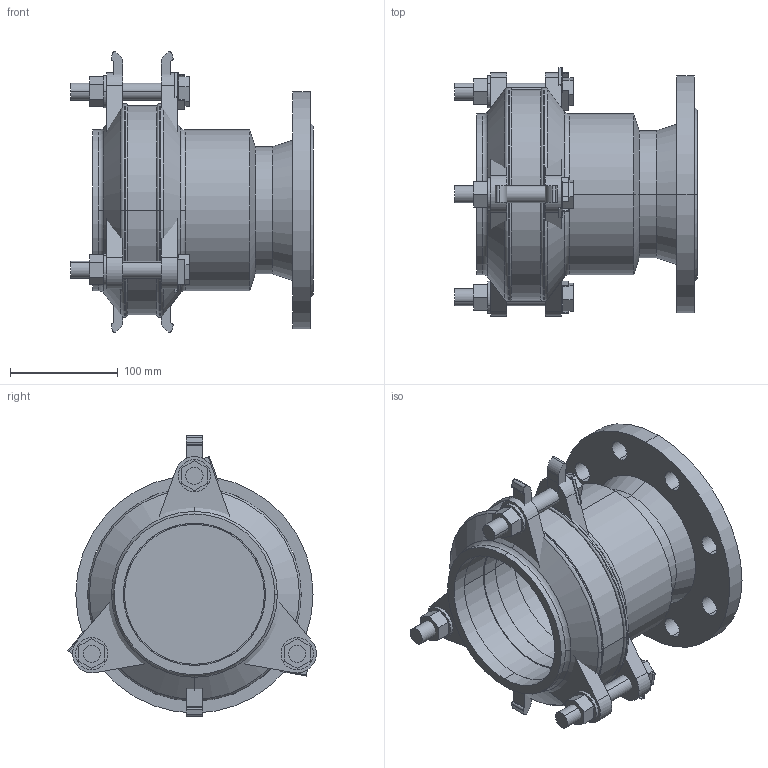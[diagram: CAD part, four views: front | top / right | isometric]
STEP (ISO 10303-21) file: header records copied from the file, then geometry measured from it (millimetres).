
FILE_DESCRIPTION(('STEP AP214'),'1');
FILE_NAME('EM000044 DN 100.STP','2015-01-29T09:07:00',(' '),(' '),'Spatial InterOp 3D',' ',' ');
FILE_SCHEMA(('automotive_design'));
Length unit declared in the file: millimetre
Products named in the file (38): 3D-Objekt
Bounding box: 225 x 230.5 x 260 mm (x, y, z)
Volume: 2120273.5 mm3; surface area: 566056.9 mm2
Topology: 38 solids, 38 shells, 307 faces, 691 edges, 460 vertices
Faces by surface type: plane 186, cylinder 95, cone 14, torus 12
Entity records: 12021 total; most frequent: DIRECTION 1633, CARTESIAN_POINT 1496, ORIENTED_EDGE 1382, EDGE_CURVE 691, AXIS2_PLACEMENT_3D 597, VERTEX_POINT 460, LINE 439, VECTOR 439
